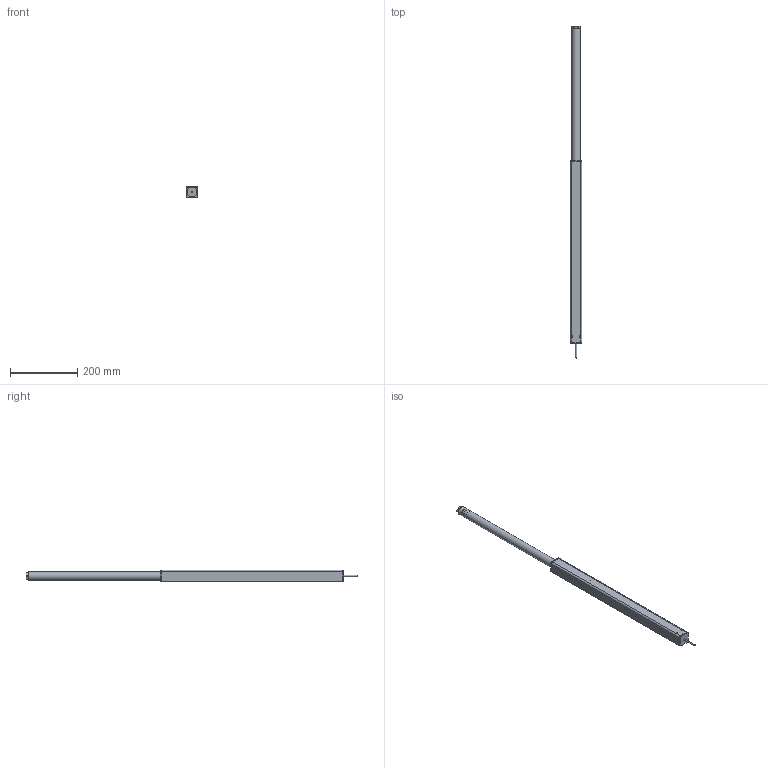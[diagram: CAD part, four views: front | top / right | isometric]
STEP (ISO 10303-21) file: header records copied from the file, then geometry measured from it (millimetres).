
FILE_DESCRIPTION(/* description */ ('Unknown'),/* implementation_level */ '2;1');
FILE_NAME(/* name */ '106.00004 Lineareinheit LA 1440_ausgefahren',/* time_stamp */ '2017-08-23T16:40:30+02:00',/* author */ ('Unknown'),/* organization */ ('Unknown'),/* preprocessor_version */ 'ST-DEVELOPER v16.7',/* originating_system */ 'DEX',/* authorisation */ $);
FILE_SCHEMA (('AP242_MANAGED_MODEL_BASED_3D_ENGINEERING_MIM_LF { 1 0 10303 442 1 1 4 }','AUTOMOTIVE_DESIGN {1 0 10303 214 3 1 1}'));
Products named in the file (9): 106.00004; 119.00004; 142.00014; 115.00001; 142.00011; 122.00018; 125.00051; 123.00004; 113.00002_70mm
Assembly tree (9 placements, depth 2):
  106.00004
    119.00004
    142.00014  x2
    115.00001
    142.00011
    122.00018
    125.00051
    123.00004
    113.00002_70mm
Bounding box: 35 x 988.5 x 35 mm (x, y, z)
Volume: 366183.3 mm3; surface area: 246650.4 mm2
Topology: 8 solids, 8 shells, 776 faces, 1818 edges, 1082 vertices
Faces by surface type: cylinder 273, bspline 224, plane 204, cone 36, torus 27, sphere 12
Full cylindrical faces by diameter (mm): 2.2 x1, 4 x7, 4.134 x4, 5 x1, 6.647 x1, 8.376 x1, 17.3 x1, 19 x1, 20.8 x3, 21 x1, 25 x1, 28.3 x1, 30.4 x1, 30.63 x1
Entity records: 74513 total; most frequent: CARTESIAN_POINT 58862, ORIENTED_EDGE 3422, DIRECTION 2541, EDGE_CURVE 1711, VERTEX_POINT 1037, AXIS2_PLACEMENT_3D 983, EDGE_LOOP 858, FACE_BOUND 858
